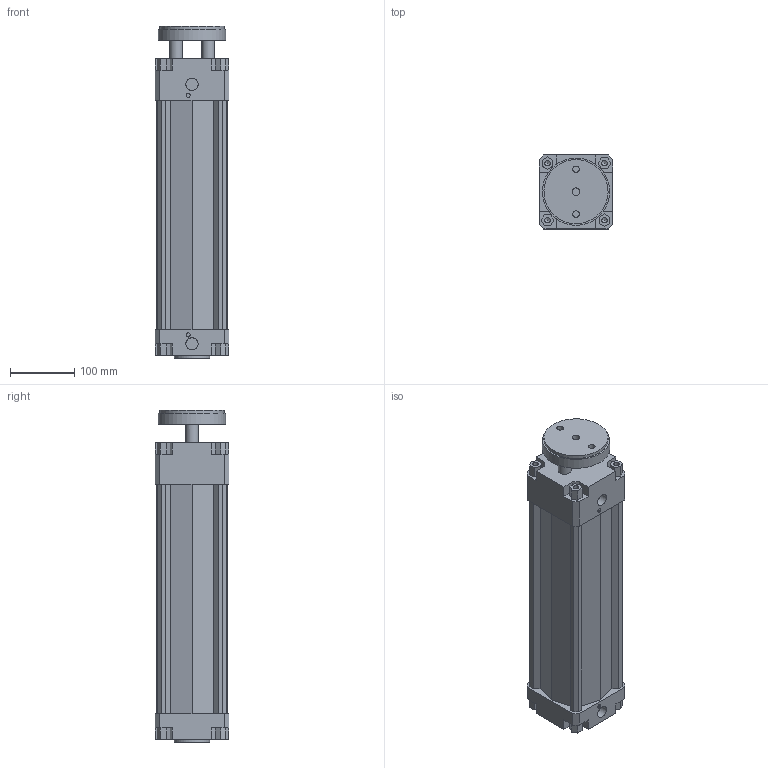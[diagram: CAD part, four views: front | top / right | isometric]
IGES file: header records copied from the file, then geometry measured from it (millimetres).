
Global section: file name: 134#_100_0300_01; native system: Autodesk Inventor 2014; preprocessor: unknown; author: A. Manieri; date: 20161006.165335; units: millimetre
Bounding box: 115 x 115 x 518 mm (x, y, z)
Volume: 3039497.8 mm3; surface area: 498752.3 mm2
Topology: 2 solids, 2 shells, 180 faces, 491 edges, 335 vertices
Faces by surface type: bspline 180
